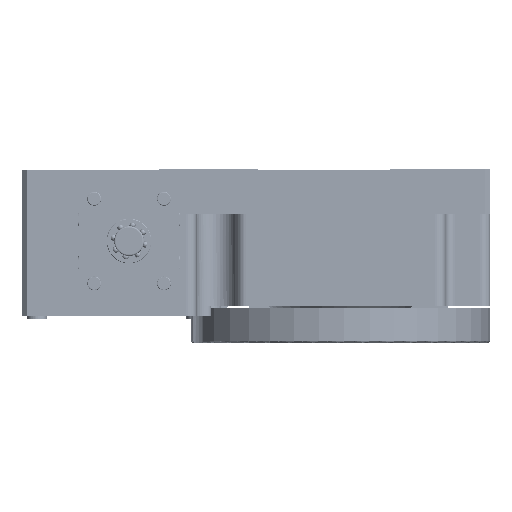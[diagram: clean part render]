
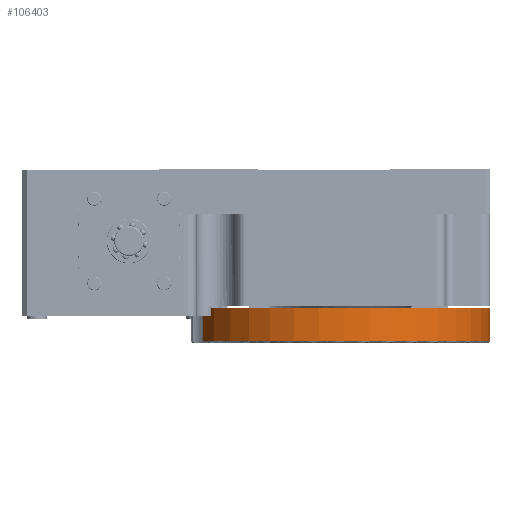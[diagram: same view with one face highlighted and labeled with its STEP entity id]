
A CAD part, left-side view. The second image highlights one B-rep face of the part: STEP entity #106403.
In plain terms, the highlighted cylindrical face has radius 30 mm (diameter 60 mm), a partial arc.
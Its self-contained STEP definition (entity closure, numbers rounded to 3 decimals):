
#4885 = DIRECTION ( 'NONE',  ( 0., 0., -1. ) ) ;
#8780 = ORIENTED_EDGE ( 'NONE', *, *, #137098, .F. ) ;
#17894 = ORIENTED_EDGE ( 'NONE', *, *, #27796, .F. ) ;
#20404 = AXIS2_PLACEMENT_3D ( 'NONE', #91931, #177520, #92994 ) ;
#22117 = DIRECTION ( 'NONE',  ( 0., 0., -1. ) ) ;
#22492 = LINE ( 'NONE', #187276, #212059 ) ;
#27796 = EDGE_CURVE ( 'NONE', #176876, #91581, #209873, .T. ) ;
#31581 = CARTESIAN_POINT ( 'NONE',  ( 56.077, -95.26, -74.056 ) ) ;
#31704 = EDGE_LOOP ( 'NONE', ( #8780, #17894, #139616, #65729 ) ) ;
#32123 = CARTESIAN_POINT ( 'NONE',  ( 56.077, -125.26, -67.556 ) ) ;
#39883 = DIRECTION ( 'NONE',  ( 0., 1., 0. ) ) ;
#41773 = CARTESIAN_POINT ( 'NONE',  ( 44.64, -67.526, -69.806 ) ) ;
#57031 = CIRCLE ( 'NONE', #172851, 30. ) ;
#57436 = CARTESIAN_POINT ( 'NONE',  ( 56.077, -95.26, -67.556 ) ) ;
#63079 = VERTEX_POINT ( 'NONE', #105403 ) ;
#65729 = ORIENTED_EDGE ( 'NONE', *, *, #66085, .T. ) ;
#66085 = EDGE_CURVE ( 'NONE', #63079, #161603, #57031, .T. ) ;
#91581 = VERTEX_POINT ( 'NONE', #32123 ) ;
#91931 = CARTESIAN_POINT ( 'NONE',  ( 56.077, -95.26, -67.556 ) ) ;
#92994 = DIRECTION ( 'NONE',  ( 0., -1., 0. ) ) ;
#105403 = CARTESIAN_POINT ( 'NONE',  ( 44.64, -67.526, -74.056 ) ) ;
#106019 = DIRECTION ( 'NONE',  ( 0., 0., -1. ) ) ;
#106403 = ADVANCED_FACE ( 'NONE', ( #122549 ), #120352, .T. ) ;
#113112 = EDGE_CURVE ( 'NONE', #176876, #63079, #173705, .T. ) ;
#120352 = CYLINDRICAL_SURFACE ( 'NONE', #125841, 30. ) ;
#122549 = FACE_OUTER_BOUND ( 'NONE', #31704, .T. ) ;
#125841 = AXIS2_PLACEMENT_3D ( 'NONE', #57436, #106019, #39883 ) ;
#127806 = CARTESIAN_POINT ( 'NONE',  ( 44.64, -67.526, -67.556 ) ) ;
#137098 = EDGE_CURVE ( 'NONE', #91581, #161603, #22492, .T. ) ;
#139616 = ORIENTED_EDGE ( 'NONE', *, *, #113112, .T. ) ;
#156327 = CARTESIAN_POINT ( 'NONE',  ( 56.077, -125.26, -74.056 ) ) ;
#161603 = VERTEX_POINT ( 'NONE', #156327 ) ;
#172851 = AXIS2_PLACEMENT_3D ( 'NONE', #31581, #199693, #182141 ) ;
#173705 = LINE ( 'NONE', #41773, #177701 ) ;
#176876 = VERTEX_POINT ( 'NONE', #127806 ) ;
#177520 = DIRECTION ( 'NONE',  ( 0., 0., 1. ) ) ;
#177701 = VECTOR ( 'NONE', #22117, 1000. ) ;
#182141 = DIRECTION ( 'NONE',  ( 0., -1., 0. ) ) ;
#187276 = CARTESIAN_POINT ( 'NONE',  ( 56.077, -125.26, -67.556 ) ) ;
#199693 = DIRECTION ( 'NONE',  ( 0., 0., 1. ) ) ;
#209873 = CIRCLE ( 'NONE', #20404, 30. ) ;
#212059 = VECTOR ( 'NONE', #4885, 1000. ) ;
